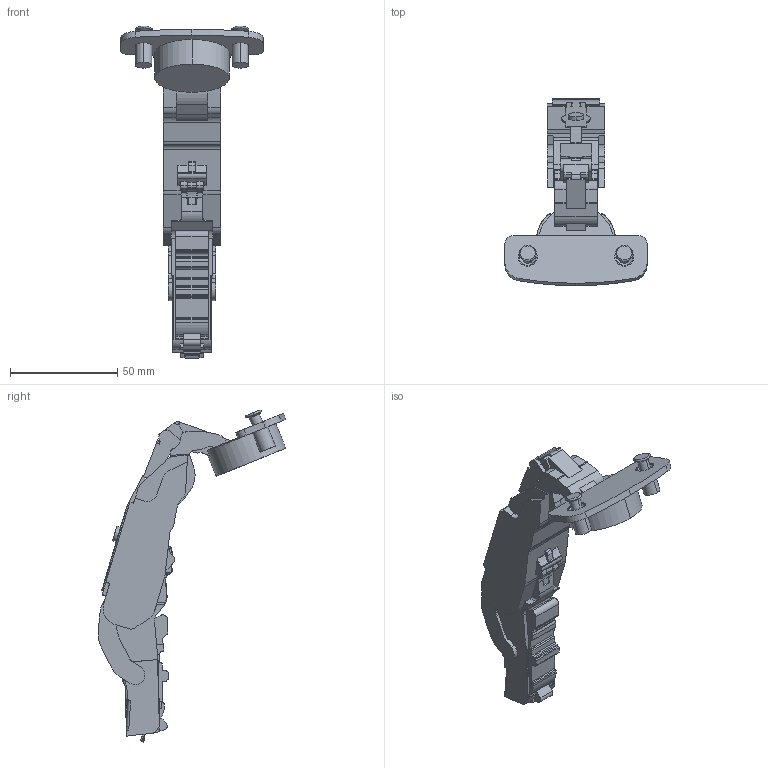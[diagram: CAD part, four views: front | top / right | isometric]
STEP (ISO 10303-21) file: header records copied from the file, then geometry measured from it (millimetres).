
FILE_DESCRIPTION (( 'STEP AP203' ), '1' );
FILE_NAME ('C81A805KFAB DTC 3D OPEN.STEP', '2024-07-30T01:45:09', ( '微软用户' ), ( '微软中国' ), 'SwSTEP 2.0', 'SolidWorks 2021', '' );
FILE_SCHEMA (( 'CONFIG_CONTROL_DESIGN' ));
Length unit declared in the file: millimetre
Products named in the file (1): C81A805KFAB DTC 3D OPEN
Bounding box: 66.2 x 87.36 x 154.51 mm (x, y, z)
Volume: 94475.3 mm3; surface area: 22861.6 mm2
Topology: 1 solids, 10 shells, 884 faces, 2408 edges, 1531 vertices
Faces by surface type: plane 348, cylinder 334, torus 120, bspline 68, cone 12, sphere 2
Entity records: 30835 total; most frequent: CARTESIAN_POINT 8627, ORIENTED_EDGE 4792, DIRECTION 4594, EDGE_CURVE 2396, AXIS2_PLACEMENT_3D 1661, VERTEX_POINT 1531, VECTOR 1272, LINE 1272
